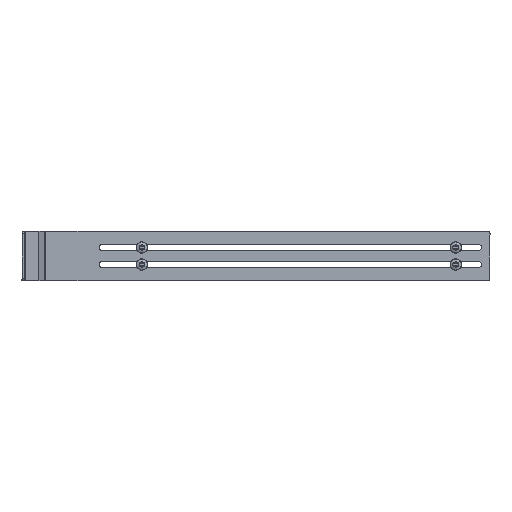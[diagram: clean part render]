
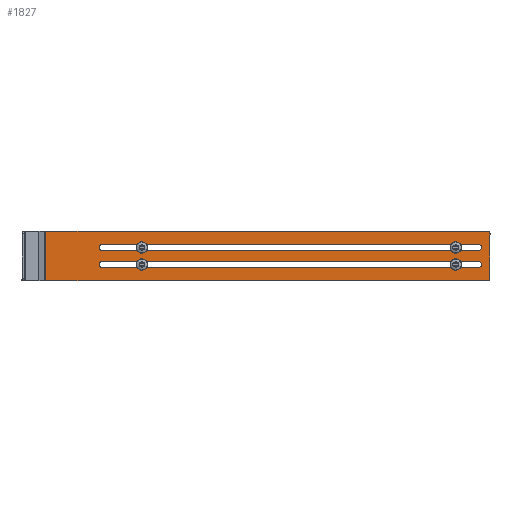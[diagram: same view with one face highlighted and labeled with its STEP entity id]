
A CAD part, left-side view. The second image highlights one B-rep face of the part: STEP entity #1827.
In plain terms, the highlighted planar face has unit normal (-1, 0, 0).
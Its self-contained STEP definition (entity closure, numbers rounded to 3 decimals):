
#280=FACE_BOUND('',#464,.T.);
#281=FACE_BOUND('',#465,.T.);
#297=PLANE('',#2077);
#369=FACE_OUTER_BOUND('',#463,.T.);
#463=EDGE_LOOP('',(#1370,#1371,#1372,#1373,#1374,#1375));
#464=EDGE_LOOP('',(#1376,#1377,#1378,#1379));
#465=EDGE_LOOP('',(#1380,#1381,#1382,#1383));
#561=LINE('',#2812,#711);
#565=LINE('',#2823,#715);
#569=LINE('',#2836,#719);
#573=LINE('',#2847,#723);
#577=LINE('',#2860,#727);
#580=LINE('',#2866,#730);
#581=LINE('',#2870,#731);
#582=LINE('',#2871,#732);
#711=VECTOR('',#2267,10.);
#715=VECTOR('',#2279,10.);
#719=VECTOR('',#2291,10.);
#723=VECTOR('',#2303,10.);
#727=VECTOR('',#2315,10.);
#730=VECTOR('',#2320,10.);
#731=VECTOR('',#2323,10.);
#732=VECTOR('',#2324,10.);
#859=CIRCLE('',#2058,2.7);
#861=CIRCLE('',#2062,2.7);
#863=CIRCLE('',#2066,2.7);
#865=CIRCLE('',#2070,2.7);
#868=CIRCLE('',#2075,2.);
#869=CIRCLE('',#2078,2.);
#950=VERTEX_POINT('',#2802);
#951=VERTEX_POINT('',#2803);
#954=VERTEX_POINT('',#2811);
#956=VERTEX_POINT('',#2817);
#958=VERTEX_POINT('',#2826);
#959=VERTEX_POINT('',#2827);
#962=VERTEX_POINT('',#2835);
#964=VERTEX_POINT('',#2841);
#968=VERTEX_POINT('',#2853);
#969=VERTEX_POINT('',#2855);
#970=VERTEX_POINT('',#2859);
#972=VERTEX_POINT('',#2865);
#973=VERTEX_POINT('',#2867);
#974=VERTEX_POINT('',#2869);
#1097=EDGE_CURVE('',#950,#951,#859,.T.);
#1101=EDGE_CURVE('',#954,#950,#561,.T.);
#1104=EDGE_CURVE('',#956,#954,#861,.T.);
#1107=EDGE_CURVE('',#951,#956,#565,.T.);
#1109=EDGE_CURVE('',#958,#959,#863,.T.);
#1113=EDGE_CURVE('',#962,#958,#569,.T.);
#1116=EDGE_CURVE('',#964,#962,#865,.T.);
#1119=EDGE_CURVE('',#959,#964,#573,.T.);
#1123=EDGE_CURVE('',#968,#969,#868,.T.);
#1125=EDGE_CURVE('',#970,#969,#577,.T.);
#1128=EDGE_CURVE('',#968,#972,#580,.T.);
#1129=EDGE_CURVE('',#973,#972,#869,.T.);
#1130=EDGE_CURVE('',#974,#973,#581,.T.);
#1131=EDGE_CURVE('',#974,#970,#582,.T.);
#1370=ORIENTED_EDGE('',*,*,#1123,.F.);
#1371=ORIENTED_EDGE('',*,*,#1128,.T.);
#1372=ORIENTED_EDGE('',*,*,#1129,.F.);
#1373=ORIENTED_EDGE('',*,*,#1130,.F.);
#1374=ORIENTED_EDGE('',*,*,#1131,.T.);
#1375=ORIENTED_EDGE('',*,*,#1125,.T.);
#1376=ORIENTED_EDGE('',*,*,#1097,.T.);
#1377=ORIENTED_EDGE('',*,*,#1107,.T.);
#1378=ORIENTED_EDGE('',*,*,#1104,.T.);
#1379=ORIENTED_EDGE('',*,*,#1101,.T.);
#1380=ORIENTED_EDGE('',*,*,#1109,.T.);
#1381=ORIENTED_EDGE('',*,*,#1119,.T.);
#1382=ORIENTED_EDGE('',*,*,#1116,.T.);
#1383=ORIENTED_EDGE('',*,*,#1113,.T.);
#1827=ADVANCED_FACE('',(#369,#280,#281),#297,.F.);
#2058=AXIS2_PLACEMENT_3D('',#2804,#2259,#2260);
#2062=AXIS2_PLACEMENT_3D('',#2818,#2272,#2273);
#2066=AXIS2_PLACEMENT_3D('',#2828,#2283,#2284);
#2070=AXIS2_PLACEMENT_3D('',#2842,#2296,#2297);
#2075=AXIS2_PLACEMENT_3D('',#2856,#2310,#2311);
#2077=AXIS2_PLACEMENT_3D('',#2864,#2318,#2319);
#2078=AXIS2_PLACEMENT_3D('',#2868,#2321,#2322);
#2259=DIRECTION('center_axis',(1.,0.,0.));
#2260=DIRECTION('ref_axis',(0.,-1.,0.));
#2267=DIRECTION('',(0.,0.,1.));
#2272=DIRECTION('center_axis',(1.,0.,0.));
#2273=DIRECTION('ref_axis',(0.,1.,0.));
#2279=DIRECTION('',(0.,0.,-1.));
#2283=DIRECTION('center_axis',(1.,0.,0.));
#2284=DIRECTION('ref_axis',(0.,-1.,0.));
#2291=DIRECTION('',(0.,0.,1.));
#2296=DIRECTION('center_axis',(1.,0.,0.));
#2297=DIRECTION('ref_axis',(0.,1.,0.));
#2303=DIRECTION('',(0.,0.,-1.));
#2310=DIRECTION('center_axis',(1.,0.,0.));
#2311=DIRECTION('ref_axis',(0.,-0.707,0.707));
#2315=DIRECTION('',(0.,0.,1.));
#2318=DIRECTION('center_axis',(1.,0.,0.));
#2319=DIRECTION('ref_axis',(0.,0.,-1.));
#2320=DIRECTION('',(0.,1.,0.));
#2321=DIRECTION('center_axis',(1.,0.,0.));
#2322=DIRECTION('ref_axis',(0.,0.707,0.707));
#2323=DIRECTION('',(0.,0.,1.));
#2324=DIRECTION('',(0.,-1.,0.));
#2802=CARTESIAN_POINT('',(-4.001,-4.8,397.8));
#2803=CARTESIAN_POINT('',(-4.001,-10.2,397.8));
#2804=CARTESIAN_POINT('Origin',(-4.001,-7.5,397.8));
#2811=CARTESIAN_POINT('',(-4.001,-4.8,68.2));
#2812=CARTESIAN_POINT('',(-4.001,-4.8,140.689));
#2817=CARTESIAN_POINT('',(-4.001,-10.2,68.2));
#2818=CARTESIAN_POINT('Origin',(-4.001,-7.5,68.2));
#2823=CARTESIAN_POINT('',(-4.001,-10.2,305.489));
#2826=CARTESIAN_POINT('',(-4.001,10.2,397.8));
#2827=CARTESIAN_POINT('',(-4.001,4.8,397.8));
#2828=CARTESIAN_POINT('Origin',(-4.001,7.5,397.8));
#2835=CARTESIAN_POINT('',(-4.001,10.2,68.2));
#2836=CARTESIAN_POINT('',(-4.001,10.2,140.689));
#2841=CARTESIAN_POINT('',(-4.001,4.8,68.2));
#2842=CARTESIAN_POINT('Origin',(-4.001,7.5,68.2));
#2847=CARTESIAN_POINT('',(-4.001,4.8,305.489));
#2853=CARTESIAN_POINT('',(-4.001,-19.5,408.));
#2855=CARTESIAN_POINT('',(-4.001,-21.5,406.));
#2856=CARTESIAN_POINT('Origin',(-4.001,-19.5,406.));
#2859=CARTESIAN_POINT('',(-4.001,-21.5,18.978));
#2860=CARTESIAN_POINT('',(-4.001,-21.5,18.354));
#2864=CARTESIAN_POINT('Origin',(-4.001,0.,
213.177));
#2865=CARTESIAN_POINT('',(-4.001,19.5,408.));
#2866=CARTESIAN_POINT('',(-4.001,-21.5,408.));
#2867=CARTESIAN_POINT('',(-4.001,21.5,406.));
#2868=CARTESIAN_POINT('Origin',(-4.001,19.5,406.));
#2869=CARTESIAN_POINT('',(-4.001,21.5,18.978));
#2870=CARTESIAN_POINT('',(-4.001,21.5,18.354));
#2871=CARTESIAN_POINT('',(-4.001,0.,18.978));
